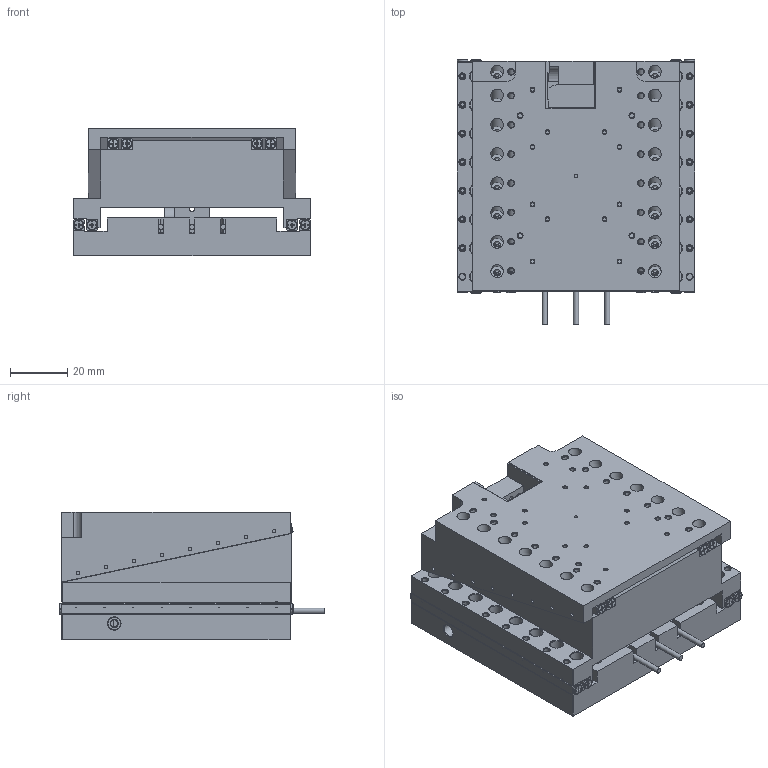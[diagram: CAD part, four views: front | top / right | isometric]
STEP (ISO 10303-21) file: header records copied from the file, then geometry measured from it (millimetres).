
FILE_DESCRIPTION(/* description */ ('Unknown'),/* implementation_level */ '2;1');
FILE_NAME(/* name */ 'XVP',/* time_stamp */ '2022-07-28T16:49:04+02:00',/* author */ ('Simon Gulix'),/* organization */ ('KU Leuven'),/* preprocessor_version */ 'ST-DEVELOPER v18.1',/* originating_system */ 'Solid Edge',/* authorisation */ 'Unknown');
FILE_SCHEMA (('AUTOMOTIVE_DESIGN {1 0 10303 214 3 1 1}'));
Length unit declared in the file: millimetre
Products named in the file (7): wig finaal; bottom; SV1080- 21Z Body; top; middle; cable; m1.6 6mm
Assembly tree (16 placements, depth 2):
  wig finaal
    bottom
    SV1080- 21Z Body  x8
    top
    middle
    cable  x3
    m1.6 6mm  x2
Bounding box: 83 x 92.68 x 44.56 mm (x, y, z)
Volume: 187093.7 mm3; surface area: 77142.1 mm2
Topology: 16 solids, 16 shells, 1456 faces, 3560 edges, 2263 vertices
Faces by surface type: plane 685, cylinder 449, cone 322
Full cylindrical faces by diameter (mm): 1.25 x113, 1.567 x64, 1.6 x32, 1.8 x11, 2.05 x36, 2.4 x32, 2.5 x2, 3 x68, 3.3 x5, 3.5 x4, 3.6 x16, 4.4 x34
Entity records: 27064 total; most frequent: DIRECTION 3891, CARTESIAN_POINT 3386, ORIENTED_EDGE 2754, AXIS2_PLACEMENT_3D 1666, EDGE_LOOP 1629, FACE_BOUND 1629, EDGE_CURVE 1377, VERTEX_POINT 1132
